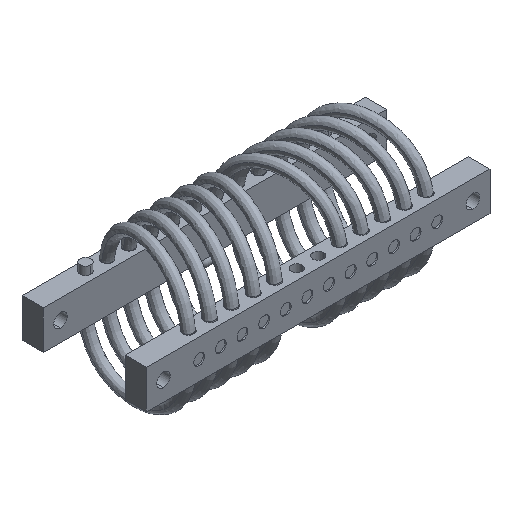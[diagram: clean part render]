
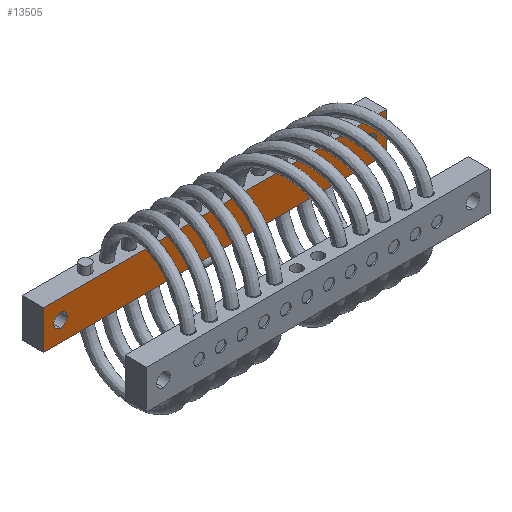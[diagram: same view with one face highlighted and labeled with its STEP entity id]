
A CAD part, isometric view. The second image highlights one B-rep face of the part: STEP entity #13505.
In plain terms, the highlighted planar face has unit normal (0, -1, 0).
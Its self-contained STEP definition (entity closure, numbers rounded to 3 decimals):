
#137 = ORIENTED_EDGE ( 'NONE', *, *, #2398, .T. ) ;
#360 = DIRECTION ( 'NONE',  ( 0., 0., -1. ) ) ;
#550 = ORIENTED_EDGE ( 'NONE', *, *, #2135, .T. ) ;
#766 = EDGE_CURVE ( 'NONE', #4540, #2373, #3959, .T. ) ;
#894 = FACE_OUTER_BOUND ( 'NONE', #11119, .T. ) ;
#1017 = ORIENTED_EDGE ( 'NONE', *, *, #1546, .F. ) ;
#1073 = ORIENTED_EDGE ( 'NONE', *, *, #766, .T. ) ;
#1546 = EDGE_CURVE ( 'NONE', #6701, #21832, #14432, .T. ) ;
#1786 = DIRECTION ( 'NONE',  ( -1., 0., 0. ) ) ;
#2135 = EDGE_CURVE ( 'NONE', #22407, #4531, #18825, .T. ) ;
#2373 = VERTEX_POINT ( 'NONE', #3471 ) ;
#2398 = EDGE_CURVE ( 'NONE', #2373, #21832, #11903, .T. ) ;
#2497 = EDGE_CURVE ( 'NONE', #4531, #22407, #14166, .T. ) ;
#2695 = CARTESIAN_POINT ( 'NONE',  ( -63.5, 15.1, -7.15 ) ) ;
#2854 = CARTESIAN_POINT ( 'NONE',  ( 57.15, 15.1, -2.5 ) ) ;
#3471 = CARTESIAN_POINT ( 'NONE',  ( -63.5, 15.1, 7.15 ) ) ;
#3959 = LINE ( 'NONE', #15252, #20482 ) ;
#4531 = VERTEX_POINT ( 'NONE', #4999 ) ;
#4540 = VERTEX_POINT ( 'NONE', #11985 ) ;
#4725 = CARTESIAN_POINT ( 'NONE',  ( 63.5, 15.1, -7.15 ) ) ;
#4740 = DIRECTION ( 'NONE',  ( 0., 1., 0. ) ) ;
#4999 = CARTESIAN_POINT ( 'NONE',  ( -57.15, 15.1, 2.5 ) ) ;
#5317 = AXIS2_PLACEMENT_3D ( 'NONE', #18706, #22440, #11896 ) ;
#5862 = ORIENTED_EDGE ( 'NONE', *, *, #6964, .T. ) ;
#6465 = LINE ( 'NONE', #21434, #20492 ) ;
#6701 = VERTEX_POINT ( 'NONE', #4725 ) ;
#6775 = ORIENTED_EDGE ( 'NONE', *, *, #2497, .T. ) ;
#6964 = EDGE_CURVE ( 'NONE', #11609, #18483, #10110, .T. ) ;
#7033 = CARTESIAN_POINT ( 'NONE',  ( -63.5, 15.1, -7.15 ) ) ;
#7780 = AXIS2_PLACEMENT_3D ( 'NONE', #20913, #10406, #22669 ) ;
#9023 = CARTESIAN_POINT ( 'NONE',  ( -57.15, 15.1, 0. ) ) ;
#9044 = DIRECTION ( 'NONE',  ( 0., 1., 0. ) ) ;
#9392 = CARTESIAN_POINT ( 'NONE',  ( -57.15, 15.1, -2.5 ) ) ;
#10006 = ORIENTED_EDGE ( 'NONE', *, *, #12512, .T. ) ;
#10110 = CIRCLE ( 'NONE', #21675, 2.5 ) ;
#10406 = DIRECTION ( 'NONE',  ( 0., 1., 0. ) ) ;
#10781 = DIRECTION ( 'NONE',  ( 0., 0., 1. ) ) ;
#11119 = EDGE_LOOP ( 'NONE', ( #137, #1017, #13952, #1073 ) ) ;
#11609 = VERTEX_POINT ( 'NONE', #22253 ) ;
#11896 = DIRECTION ( 'NONE',  ( 0., 0., 1. ) ) ;
#11903 = LINE ( 'NONE', #7033, #16076 ) ;
#11985 = CARTESIAN_POINT ( 'NONE',  ( 63.5, 15.1, 7.15 ) ) ;
#12512 = EDGE_CURVE ( 'NONE', #18483, #11609, #14981, .T. ) ;
#13505 = ADVANCED_FACE ( 'NONE', ( #20732, #16079, #894 ), #20680, .F. ) ;
#13952 = ORIENTED_EDGE ( 'NONE', *, *, #21144, .F. ) ;
#14093 = CARTESIAN_POINT ( 'NONE',  ( 63.5, 15.1, -7.15 ) ) ;
#14166 = CIRCLE ( 'NONE', #15697, 2.5 ) ;
#14432 = LINE ( 'NONE', #14093, #19125 ) ;
#14981 = CIRCLE ( 'NONE', #7780, 2.5 ) ;
#15252 = CARTESIAN_POINT ( 'NONE',  ( 63.5, 15.1, 7.15 ) ) ;
#15312 = CARTESIAN_POINT ( 'NONE',  ( 57.15, 15.1, 0. ) ) ;
#15697 = AXIS2_PLACEMENT_3D ( 'NONE', #9023, #21311, #10781 ) ;
#16076 = VECTOR ( 'NONE', #21084, 1000. ) ;
#16079 = FACE_BOUND ( 'NONE', #20236, .T. ) ;
#16134 = AXIS2_PLACEMENT_3D ( 'NONE', #19595, #9044, #21336 ) ;
#17065 = DIRECTION ( 'NONE',  ( 0., 0., 1. ) ) ;
#18483 = VERTEX_POINT ( 'NONE', #2854 ) ;
#18706 = CARTESIAN_POINT ( 'NONE',  ( 63.5, 15.1, -7.15 ) ) ;
#18787 = DIRECTION ( 'NONE',  ( -1., 0., 0. ) ) ;
#18825 = CIRCLE ( 'NONE', #16134, 2.5 ) ;
#19125 = VECTOR ( 'NONE', #1786, 1000. ) ;
#19595 = CARTESIAN_POINT ( 'NONE',  ( -57.15, 15.1, 0. ) ) ;
#20236 = EDGE_LOOP ( 'NONE', ( #6775, #550 ) ) ;
#20482 = VECTOR ( 'NONE', #18787, 1000. ) ;
#20492 = VECTOR ( 'NONE', #360, 1000. ) ;
#20680 = PLANE ( 'NONE',  #5317 ) ;
#20732 = FACE_BOUND ( 'NONE', #21331, .T. ) ;
#20913 = CARTESIAN_POINT ( 'NONE',  ( 57.15, 15.1, 0. ) ) ;
#21084 = DIRECTION ( 'NONE',  ( 0., 0., -1. ) ) ;
#21144 = EDGE_CURVE ( 'NONE', #4540, #6701, #6465, .T. ) ;
#21311 = DIRECTION ( 'NONE',  ( 0., 1., 0. ) ) ;
#21331 = EDGE_LOOP ( 'NONE', ( #5862, #10006 ) ) ;
#21336 = DIRECTION ( 'NONE',  ( 0., 0., 1. ) ) ;
#21434 = CARTESIAN_POINT ( 'NONE',  ( 63.5, 15.1, -7.15 ) ) ;
#21675 = AXIS2_PLACEMENT_3D ( 'NONE', #15312, #4740, #17065 ) ;
#21832 = VERTEX_POINT ( 'NONE', #2695 ) ;
#22253 = CARTESIAN_POINT ( 'NONE',  ( 57.15, 15.1, 2.5 ) ) ;
#22407 = VERTEX_POINT ( 'NONE', #9392 ) ;
#22440 = DIRECTION ( 'NONE',  ( 0., 1., 0. ) ) ;
#22669 = DIRECTION ( 'NONE',  ( 0., 0., 1. ) ) ;
